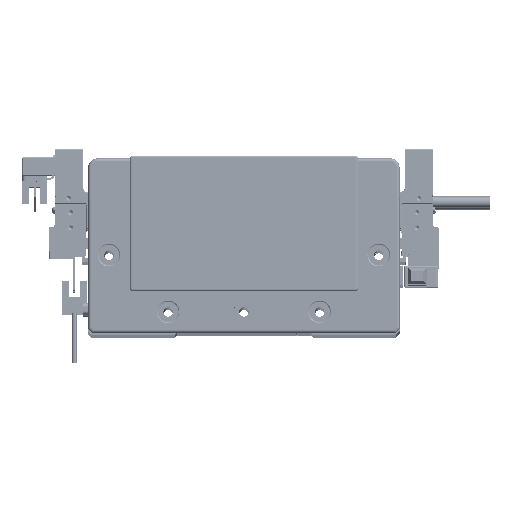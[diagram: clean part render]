
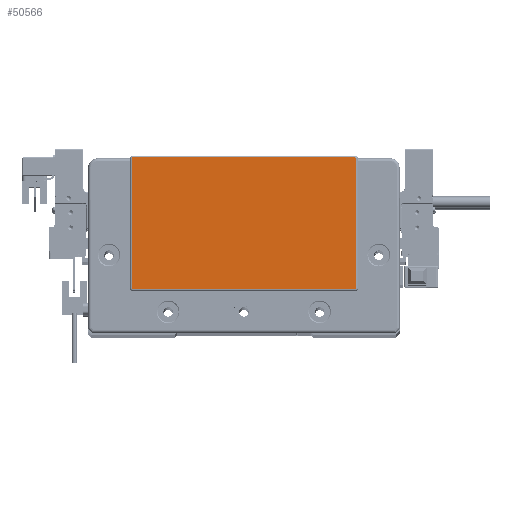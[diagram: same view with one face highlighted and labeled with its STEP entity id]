
A CAD part, top view. The second image highlights one B-rep face of the part: STEP entity #50566.
In plain terms, the highlighted planar face has unit normal (0, 0, 1) as drawn and (0, 0, -1) by its records, which use the part's own axes.
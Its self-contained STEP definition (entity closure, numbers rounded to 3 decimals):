
#355 = DIRECTION ( 'NONE',  ( 0., -1., 0. ) ) ;
#907 = ORIENTED_EDGE ( 'NONE', *, *, #31739, .T. ) ;
#1815 = EDGE_CURVE ( 'NONE', #48033, #37512, #85886, .T. ) ;
#6927 = VERTEX_POINT ( 'NONE', #15231 ) ;
#9257 = LINE ( 'NONE', #67079, #55139 ) ;
#10331 = VERTEX_POINT ( 'NONE', #45472 ) ;
#10588 = ORIENTED_EDGE ( 'NONE', *, *, #1815, .T. ) ;
#14826 = EDGE_LOOP ( 'NONE', ( #15871, #38299, #35062, #42315, #23322, #54019, #10588, #907 ) ) ;
#14946 = CIRCLE ( 'NONE', #30242, 0.5 ) ;
#15231 = CARTESIAN_POINT ( 'NONE',  ( 59.25, 45.3, -2. ) ) ;
#15709 = DIRECTION ( 'NONE',  ( 0., 0., -1. ) ) ;
#15871 = ORIENTED_EDGE ( 'NONE', *, *, #53248, .T. ) ;
#17693 = LINE ( 'NONE', #46966, #29797 ) ;
#21622 = AXIS2_PLACEMENT_3D ( 'NONE', #23655, #81773, #74544 ) ;
#21820 = VECTOR ( 'NONE', #355, 1000. ) ;
#23322 = ORIENTED_EDGE ( 'NONE', *, *, #30767, .T. ) ;
#23655 = CARTESIAN_POINT ( 'NONE',  ( 0., 0., -2. ) ) ;
#25636 = AXIS2_PLACEMENT_3D ( 'NONE', #44968, #15709, #31061 ) ;
#27225 = CIRCLE ( 'NONE', #25636, 0.5 ) ;
#28275 = CARTESIAN_POINT ( 'NONE',  ( 58.75, 45.8, -2. ) ) ;
#29684 = DIRECTION ( 'NONE',  ( 0., 0., -1. ) ) ;
#29797 = VECTOR ( 'NONE', #84903, 1000. ) ;
#30242 = AXIS2_PLACEMENT_3D ( 'NONE', #39740, #69007, #45525 ) ;
#30767 = EDGE_CURVE ( 'NONE', #88291, #60404, #17693, .T. ) ;
#31061 = DIRECTION ( 'NONE',  ( -1., 0., 0. ) ) ;
#31739 = EDGE_CURVE ( 'NONE', #37512, #6927, #46827, .T. ) ;
#35062 = ORIENTED_EDGE ( 'NONE', *, *, #74081, .T. ) ;
#36855 = LINE ( 'NONE', #66119, #21820 ) ;
#37512 = VERTEX_POINT ( 'NONE', #91372 ) ;
#37526 = CARTESIAN_POINT ( 'NONE',  ( -59.25, 45.3, -2. ) ) ;
#38299 = ORIENTED_EDGE ( 'NONE', *, *, #49794, .T. ) ;
#38854 = DIRECTION ( 'NONE',  ( 0., 0., -1. ) ) ;
#39740 = CARTESIAN_POINT ( 'NONE',  ( -58.75, -23.3, -2. ) ) ;
#41455 = CARTESIAN_POINT ( 'NONE',  ( 59.25, -23.3, -2. ) ) ;
#42315 = ORIENTED_EDGE ( 'NONE', *, *, #65203, .T. ) ;
#44968 = CARTESIAN_POINT ( 'NONE',  ( -58.75, 45.3, -2. ) ) ;
#45472 = CARTESIAN_POINT ( 'NONE',  ( 58.75, -23.8, -2. ) ) ;
#45525 = DIRECTION ( 'NONE',  ( -1., 0., 0. ) ) ;
#45996 = CIRCLE ( 'NONE', #64421, 0.5 ) ;
#46827 = CIRCLE ( 'NONE', #77448, 0.5 ) ;
#46966 = CARTESIAN_POINT ( 'NONE',  ( -59.25, 45.3, -2. ) ) ;
#48033 = VERTEX_POINT ( 'NONE', #50386 ) ;
#49794 = EDGE_CURVE ( 'NONE', #79800, #10331, #45996, .T. ) ;
#50386 = CARTESIAN_POINT ( 'NONE',  ( -58.75, 45.8, -2. ) ) ;
#50566 = ADVANCED_FACE ( 'NONE', ( #67316 ), #66866, .T. ) ;
#51717 = DIRECTION ( 'NONE',  ( -1., 0., 0. ) ) ;
#52670 = CARTESIAN_POINT ( 'NONE',  ( 58.75, -23.3, -2. ) ) ;
#53248 = EDGE_CURVE ( 'NONE', #6927, #79800, #36855, .T. ) ;
#54019 = ORIENTED_EDGE ( 'NONE', *, *, #90879, .T. ) ;
#55139 = VECTOR ( 'NONE', #74752, 1000. ) ;
#56325 = CARTESIAN_POINT ( 'NONE',  ( -59.25, -23.3, -2. ) ) ;
#59238 = CARTESIAN_POINT ( 'NONE',  ( -58.75, -23.8, -2. ) ) ;
#60404 = VERTEX_POINT ( 'NONE', #37526 ) ;
#61221 = VERTEX_POINT ( 'NONE', #59238 ) ;
#64421 = AXIS2_PLACEMENT_3D ( 'NONE', #52670, #29684, #51717 ) ;
#65203 = EDGE_CURVE ( 'NONE', #61221, #88291, #14946, .T. ) ;
#66119 = CARTESIAN_POINT ( 'NONE',  ( 59.25, -23.3, -2. ) ) ;
#66866 = PLANE ( 'NONE',  #21622 ) ;
#67079 = CARTESIAN_POINT ( 'NONE',  ( -58.75, -23.8, -2. ) ) ;
#67316 = FACE_OUTER_BOUND ( 'NONE', #14826, .T. ) ;
#69007 = DIRECTION ( 'NONE',  ( 0., 0., -1. ) ) ;
#70984 = DIRECTION ( 'NONE',  ( 1., 0., 0. ) ) ;
#74081 = EDGE_CURVE ( 'NONE', #10331, #61221, #9257, .T. ) ;
#74544 = DIRECTION ( 'NONE',  ( -1., 0., 0. ) ) ;
#74752 = DIRECTION ( 'NONE',  ( -1., 0., 0. ) ) ;
#74848 = CARTESIAN_POINT ( 'NONE',  ( 58.75, 45.3, -2. ) ) ;
#77448 = AXIS2_PLACEMENT_3D ( 'NONE', #74848, #38854, #89306 ) ;
#79800 = VERTEX_POINT ( 'NONE', #41455 ) ;
#81773 = DIRECTION ( 'NONE',  ( 0., 0., -1. ) ) ;
#84723 = VECTOR ( 'NONE', #70984, 1000. ) ;
#84903 = DIRECTION ( 'NONE',  ( 0., 1., 0. ) ) ;
#85886 = LINE ( 'NONE', #28275, #84723 ) ;
#88291 = VERTEX_POINT ( 'NONE', #56325 ) ;
#89306 = DIRECTION ( 'NONE',  ( -1., 0., 0. ) ) ;
#90879 = EDGE_CURVE ( 'NONE', #60404, #48033, #27225, .T. ) ;
#91372 = CARTESIAN_POINT ( 'NONE',  ( 58.75, 45.8, -2. ) ) ;
